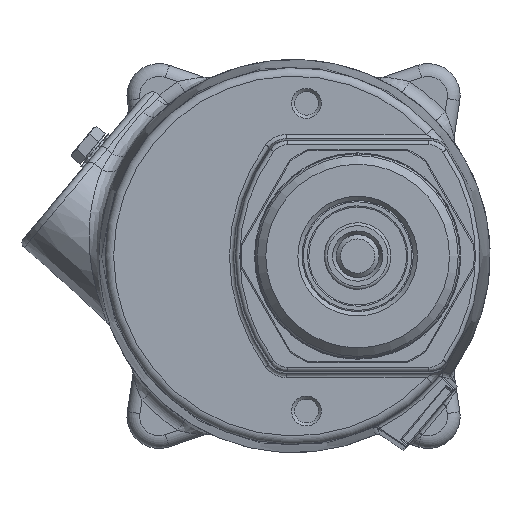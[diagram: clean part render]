
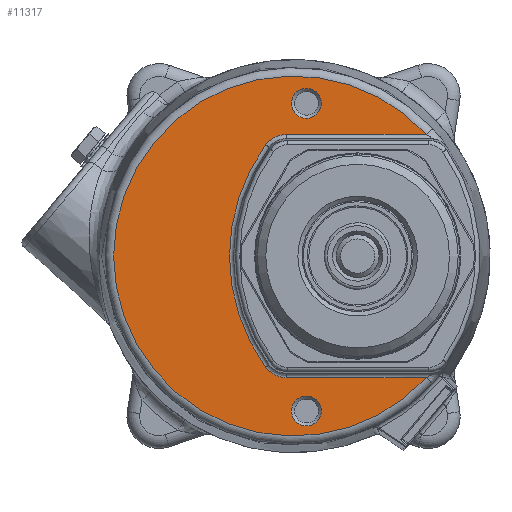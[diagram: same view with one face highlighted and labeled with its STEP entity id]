
A CAD part, front view. The second image highlights one B-rep face of the part: STEP entity #11317.
In plain terms, the highlighted planar face has unit normal (0, -1, 0).
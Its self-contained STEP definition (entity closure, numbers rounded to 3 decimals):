
#521=FACE_BOUND('',#2691,.T.);
#522=FACE_BOUND('',#2692,.T.);
#911=CIRCLE('',#12178,3.5);
#914=CIRCLE('',#12184,3.5);
#1019=CIRCLE('',#12401,43.966);
#1026=CIRCLE('',#12412,42.113);
#1353=B_SPLINE_CURVE_WITH_KNOTS('',3,(#21637,#21638,#21639,#21640,#21641),
 .UNSPECIFIED.,.F.,.F.,(4,1,4),(-0.56,-0.24,0.),
 .UNSPECIFIED.);
#1357=B_SPLINE_CURVE_WITH_KNOTS('',3,(#21719,#21720,#21721,#21722,#21723),
 .UNSPECIFIED.,.F.,.F.,(4,1,4),(-0.56,-0.32,0.),
 .UNSPECIFIED.);
#2057=FACE_OUTER_BOUND('',#2690,.T.);
#2690=EDGE_LOOP('',(#9291,#9292,#9293,#9294,#9295,#9296));
#2691=EDGE_LOOP('',(#9297));
#2692=EDGE_LOOP('',(#9298));
#3289=LINE('',#21955,#3864);
#3290=LINE('',#21959,#3865);
#3864=VECTOR('',#15054,10.);
#3865=VECTOR('',#15061,10.);
#4618=VERTEX_POINT('',#19616);
#4621=VERTEX_POINT('',#19627);
#4780=VERTEX_POINT('',#21635);
#4781=VERTEX_POINT('',#21636);
#4787=VERTEX_POINT('',#21716);
#4788=VERTEX_POINT('',#21718);
#4791=VERTEX_POINT('',#21819);
#4793=VERTEX_POINT('',#21917);
#6011=EDGE_CURVE('',#4618,#4618,#911,.T.);
#6016=EDGE_CURVE('',#4621,#4621,#914,.T.);
#6297=EDGE_CURVE('',#4780,#4781,#1353,.T.);
#6306=EDGE_CURVE('',#4787,#4788,#1357,.T.);
#6309=EDGE_CURVE('',#4781,#4787,#1019,.T.);
#6323=EDGE_CURVE('',#4788,#4793,#3289,.T.);
#6324=EDGE_CURVE('',#4793,#4791,#1026,.T.);
#6325=EDGE_CURVE('',#4791,#4780,#3290,.T.);
#9291=ORIENTED_EDGE('',*,*,#6306,.F.);
#9292=ORIENTED_EDGE('',*,*,#6309,.F.);
#9293=ORIENTED_EDGE('',*,*,#6297,.F.);
#9294=ORIENTED_EDGE('',*,*,#6325,.F.);
#9295=ORIENTED_EDGE('',*,*,#6324,.F.);
#9296=ORIENTED_EDGE('',*,*,#6323,.F.);
#9297=ORIENTED_EDGE('',*,*,#6011,.T.);
#9298=ORIENTED_EDGE('',*,*,#6016,.T.);
#10169=PLANE('',#12417);
#11317=ADVANCED_FACE('',(#2057,#521,#522),#10169,.F.);
#12178=AXIS2_PLACEMENT_3D('',#19617,#14501,#14502);
#12184=AXIS2_PLACEMENT_3D('',#19628,#14515,#14516);
#12401=AXIS2_PLACEMENT_3D('',#21727,#15032,#15033);
#12412=AXIS2_PLACEMENT_3D('',#21957,#15057,#15058);
#12417=AXIS2_PLACEMENT_3D('',#22021,#15070,#15071);
#14501=DIRECTION('center_axis',(0.,1.,0.));
#14502=DIRECTION('ref_axis',(-1.,0.,0.));
#14515=DIRECTION('center_axis',(0.,1.,0.));
#14516=DIRECTION('ref_axis',(-1.,0.,0.));
#15032=DIRECTION('center_axis',(0.,-1.,0.));
#15033=DIRECTION('ref_axis',(-1.,0.,0.));
#15054=DIRECTION('',(1.,0.,0.));
#15057=DIRECTION('center_axis',(0.,1.,0.));
#15058=DIRECTION('ref_axis',(-1.,0.,0.));
#15061=DIRECTION('',(-1.,0.,0.));
#15070=DIRECTION('center_axis',(0.,1.,0.));
#15071=DIRECTION('ref_axis',(0.,0.,
-1.));
#19616=CARTESIAN_POINT('',(6.5,-85.,-36.256));
#19617=CARTESIAN_POINT('Origin',(3.,-85.,-36.256));
#19627=CARTESIAN_POINT('',(6.5,-85.,35.744));
#19628=CARTESIAN_POINT('Origin',(3.,-85.,35.744));
#21635=CARTESIAN_POINT('',(-1.652,-85.,28.466));
#21636=CARTESIAN_POINT('',(-6.485,-85.,26.018));
#21637=CARTESIAN_POINT('Ctrl Pts',(-1.652,-85.,28.466));
#21638=CARTESIAN_POINT('Ctrl Pts',(-2.718,-85.,28.466));
#21639=CARTESIAN_POINT('Ctrl Pts',(-4.587,-85.,27.955));
#21640=CARTESIAN_POINT('Ctrl Pts',(-6.012,-85.,26.662));
#21641=CARTESIAN_POINT('Ctrl Pts',(-6.485,-85.,26.018));
#21716=CARTESIAN_POINT('',(-6.485,-85.,-26.018));
#21718=CARTESIAN_POINT('',(-1.652,-85.,-28.466));
#21719=CARTESIAN_POINT('Ctrl Pts',(-6.485,-85.,-26.018));
#21720=CARTESIAN_POINT('Ctrl Pts',(-6.012,-85.,-26.662));
#21721=CARTESIAN_POINT('Ctrl Pts',(-4.602,-85.,-27.948));
#21722=CARTESIAN_POINT('Ctrl Pts',(-2.718,-85.,-28.466));
#21723=CARTESIAN_POINT('Ctrl Pts',(-1.652,-85.,-28.466));
#21727=CARTESIAN_POINT('Origin',(28.956,-85.,0.));
#21819=CARTESIAN_POINT('',(31.036,-85.,28.466));
#21917=CARTESIAN_POINT('',(31.036,-85.,-28.466));
#21955=CARTESIAN_POINT('',(-19.4,-85.,-28.466));
#21957=CARTESIAN_POINT('Origin',(0.,-85.,0.));
#21959=CARTESIAN_POINT('',(-19.4,-85.,28.466));
#22021=CARTESIAN_POINT('Origin',(-38.8,-85.,0.));
